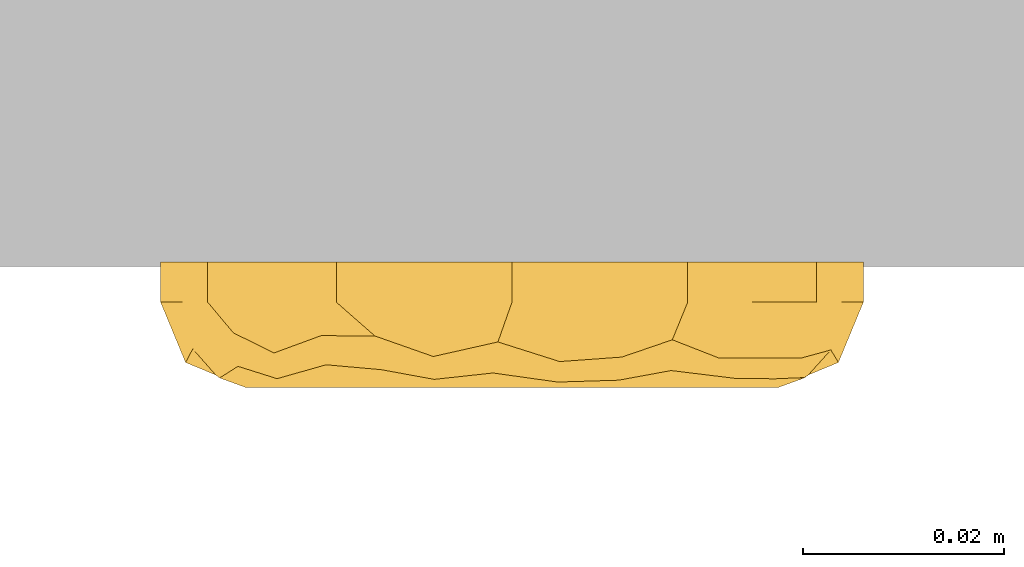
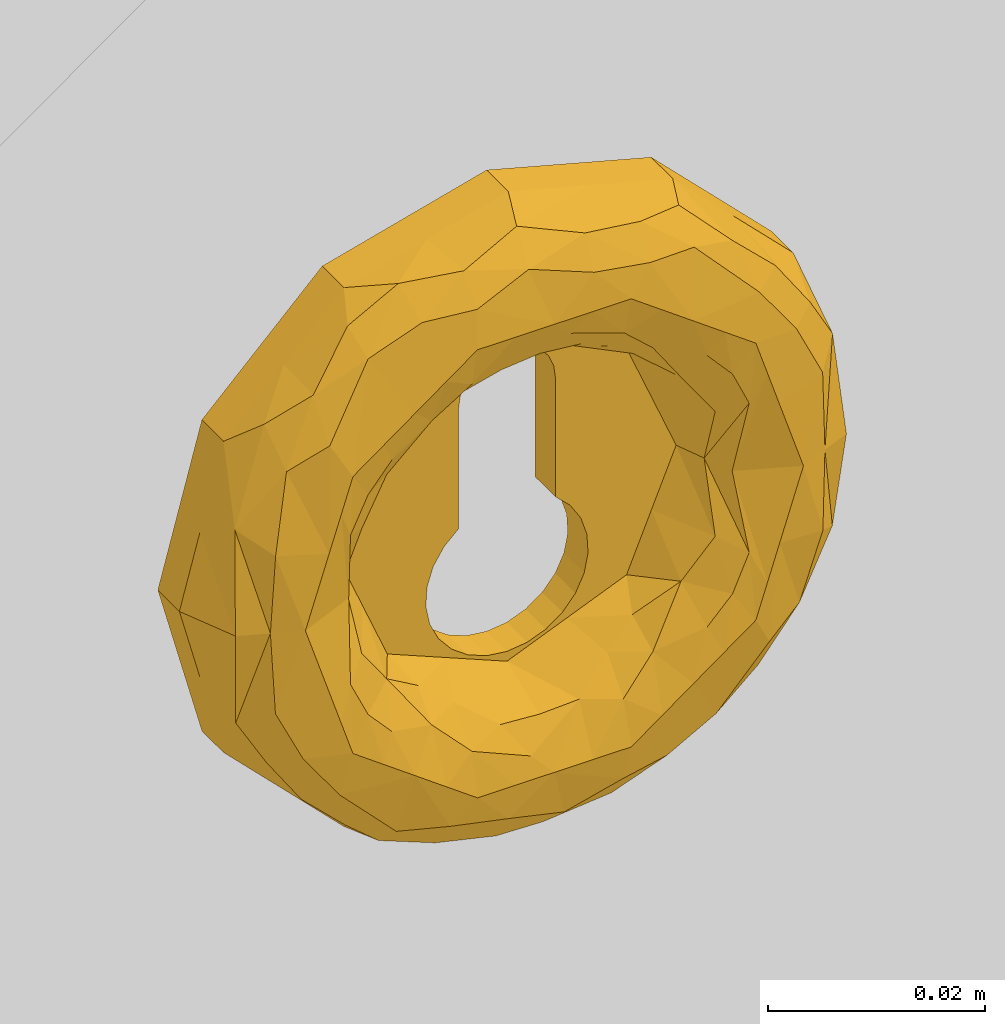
# One storey, part 2 of 2: 1 door.
"""IFC2X3 building model written with IfcOpenShell, lengths in feet."""

from ifc_helpers import new_model, entity, si_unit, converted_unit, derived_unit, direction, frame, origin, place, context, subcontext, project, spatial, faceted_brep, source, transform, mapped, type_object, type_shapes, element, save


model = new_model("IFC2X3")

# Units and contexts
model_context = context("Model", 3, precision=0.0001, world=origin(), true_north=direction((6.12303176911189e-17, 1.0)))
body_context = subcontext(model_context, "Body", "Model", "MODEL_VIEW")
ifc_project = project(units=[converted_unit("LENGTHUNIT", "FOOT", entity("IfcRatioMeasure", 0.3048), si_unit("LENGTHUNIT", "METRE"), dimensions=[1, 0, 0, 0, 0, 0, 0]), converted_unit("AREAUNIT", "SQUARE FOOT", entity("IfcRatioMeasure", 0.09290304), si_unit("AREAUNIT", "SQUARE_METRE"), dimensions=[2, 0, 0, 0, 0, 0, 0]), converted_unit("VOLUMEUNIT", "CUBIC FOOT", entity("IfcRatioMeasure", 0.028316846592), si_unit("VOLUMEUNIT", "CUBIC_METRE"), dimensions=[3, 0, 0, 0, 0, 0, 0]), converted_unit("PLANEANGLEUNIT", "DEGREE", entity("IfcRatioMeasure", 0.0174532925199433), si_unit("PLANEANGLEUNIT", "RADIAN"), dimensions=[0, 0, 0, 0, 0, 0, 0]), si_unit("MASSUNIT", "GRAM", prefix="KILO"), derived_unit("MASSDENSITYUNIT", [(si_unit("MASSUNIT", "GRAM", prefix="KILO"), 1), (si_unit("LENGTHUNIT", "METRE"), -3)]), si_unit("TIMEUNIT", "SECOND"), si_unit("FREQUENCYUNIT", "HERTZ"), si_unit("THERMODYNAMICTEMPERATUREUNIT", "DEGREE_CELSIUS"), derived_unit("THERMALTRANSMITTANCEUNIT", [(si_unit("MASSUNIT", "GRAM", prefix="KILO"), 1), (si_unit("THERMODYNAMICTEMPERATUREUNIT", "KELVIN"), -1), (si_unit("TIMEUNIT", "SECOND"), -3)]), derived_unit("VOLUMETRICFLOWRATEUNIT", [(si_unit("LENGTHUNIT", "METRE"), 3), (si_unit("TIMEUNIT", "SECOND"), -1)]), si_unit("ELECTRICCURRENTUNIT", "AMPERE"), si_unit("ELECTRICVOLTAGEUNIT", "VOLT"), si_unit("POWERUNIT", "WATT"), si_unit("FORCEUNIT", "NEWTON"), si_unit("ILLUMINANCEUNIT", "LUX"), si_unit("LUMINOUSFLUXUNIT", "LUMEN"), si_unit("LUMINOUSINTENSITYUNIT", "CANDELA"), derived_unit("USERDEFINED", [(si_unit("MASSUNIT", "GRAM", prefix="KILO"), -1), (si_unit("LENGTHUNIT", "METRE"), -2), (si_unit("TIMEUNIT", "SECOND"), 3), (si_unit("LUMINOUSFLUXUNIT", "LUMEN"), 1)]), derived_unit("LINEARVELOCITYUNIT", [(si_unit("LENGTHUNIT", "METRE"), 1), (si_unit("TIMEUNIT", "SECOND"), -1)]), si_unit("PRESSUREUNIT", "PASCAL"), derived_unit("USERDEFINED", [(si_unit("LENGTHUNIT", "METRE"), -2), (si_unit("MASSUNIT", "GRAM", prefix="KILO"), 1), (si_unit("TIMEUNIT", "SECOND"), -2)])], contexts=[model_context])

# Site, building, storey
site_placement = place(None, origin())
site = spatial("IfcSite", under=ifc_project, at=site_placement, Name="Default", CompositionType="ELEMENT")
building_placement = place(site_placement, origin())
building = spatial("IfcBuilding", under=site, at=building_placement, CompositionType="ELEMENT")
storey_placement = place(building_placement, origin())
storey = spatial("IfcBuildingStorey", under=building, at=storey_placement, Name="Level 1", CompositionType="ELEMENT", Elevation=0.0)

# Door
door_style = type_object("IfcDoorStyle", Name="dline_Hardware_TomDixonCollection_Escutcheons_PZ_Half_SnapOn_3.25", ConstructionType="NOTDEFINED", OperationType="NOTDEFINED", ParameterTakesPrecedence=False, Sizeable=False)
shared_shape = source(origin(), body_context, "Body", "Brep", [
    faceted_brep([(-0.0279110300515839, 0.021933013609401, -0.00161922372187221), (-0.11482939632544, 0.0, -0.00161922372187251), (-0.107137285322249, 0.0287073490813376, -0.00161922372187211), (-0.0257686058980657, 0.0151773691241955, -0.0016192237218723), (-0.0994451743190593, 0.0574146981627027, -0.00161922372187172), (-0.028312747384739, 0.0290088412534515, -0.00161922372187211), (-0.0220190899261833, 0.00916323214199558, -0.00161922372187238), (-0.0168963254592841, 0.0, -0.00161922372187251), (-0.0168963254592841, 0.00426568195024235, -0.00161922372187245), (-0.107137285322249, -0.0287073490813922, -0.00161922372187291), (-0.0994451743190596, -0.0574146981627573, -0.0016192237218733), (-0.016896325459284, -0.0399606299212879, -0.00161922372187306), (-0.0163205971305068, -0.0443337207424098, -0.00161922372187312), (-0.0784299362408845, -0.0784299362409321, -0.00161922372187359), (-0.0574146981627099, -0.0994451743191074, -0.00161922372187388), (-0.0146326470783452, -0.0484087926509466, -0.00161922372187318), (-0.0119475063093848, -0.051908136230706, -0.00161922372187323), (-0.00844816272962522, -0.0545932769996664, -0.00161922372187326), (-0.0287073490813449, -0.107137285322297, -0.00161922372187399), (0.0, -0.114829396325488, -0.0016192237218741), (-0.00437309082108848, -0.0562812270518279, -0.00161922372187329), (0.0, -0.0568569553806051, -0.0016192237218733), (0.00437309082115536, -0.0562812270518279, -0.00161922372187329), (0.0084481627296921, -0.0545932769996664, -0.00161922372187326), (0.0287073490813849, -0.107137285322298, -0.00161922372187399), (0.0574146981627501, -0.0994451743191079, -0.00161922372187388), (0.0119475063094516, -0.051908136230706, -0.00161922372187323), (0.014632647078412, -0.0484087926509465, -0.00161922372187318), (0.0163205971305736, -0.0443337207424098, -0.00161922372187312), (0.0784299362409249, -0.0784299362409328, -0.00161922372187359), (0.0994451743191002, -0.0574146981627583, -0.0016192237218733), (0.0168963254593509, -0.0399606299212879, -0.00161922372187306), (0.0168963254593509, 0.0, -0.00161922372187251), (0.10713728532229, -0.0287073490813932, -0.00161922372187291), (0.114829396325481, 0.0, -0.00161922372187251), (0.02201908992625, 0.00916323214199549, -0.00161922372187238), (0.0168963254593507, 0.00426568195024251, -0.00161922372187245), (0.0257686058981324, 0.0151773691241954, -0.0016192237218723), (0.0279110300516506, 0.0219330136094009, -0.00161922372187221), (0.10713728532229, 0.0287073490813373, -0.00161922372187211), (0.0994451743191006, 0.0574146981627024, -0.00161922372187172), (0.0283127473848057, 0.0290088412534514, -0.00161922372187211), (0.0269487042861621, 0.0359635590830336, -0.00161922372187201), (0.0239039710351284, 0.0423634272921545, -0.00161922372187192), (0.0784299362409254, 0.0784299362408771, -0.00161922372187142), (0.0574146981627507, 0.0994451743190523, -0.00161922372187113), (0.0193684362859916, 0.0478093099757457, -0.00161922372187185), (0.0136249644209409, 0.0519615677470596, -0.00161922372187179), (0.0070317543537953, 0.0545612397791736, -0.00161922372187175), (0.0287073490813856, 0.107137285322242, -0.00161922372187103), (0.0, 0.114829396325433, -0.00161922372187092), (0.0, 0.0554461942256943, -0.00161922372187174), (-0.00703175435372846, 0.0545612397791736, -0.00161922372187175), (-0.0287073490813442, 0.107137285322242, -0.00161922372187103), (-0.0574146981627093, 0.0994451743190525, -0.00161922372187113), (-0.0136249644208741, 0.0519615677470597, -0.00161922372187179), (-0.0193684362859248, 0.0478093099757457, -0.00161922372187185), (-0.0239039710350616, 0.0423634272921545, -0.00161922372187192), (-0.0269487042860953, 0.0359635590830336, -0.00161922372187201), (-0.0784299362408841, 0.0784299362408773, -0.00161922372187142), (0.0994451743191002, 0.057414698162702, 0.0114829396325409), (0.103991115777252, 0.0404490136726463, 0.0114829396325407), (0.107693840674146, 0.026630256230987, 0.0114829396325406), (0.109410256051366, 0.0202245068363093, 0.0114829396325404), (0.11482939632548, 0.0, 0.0114829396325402), (-0.107137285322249, 0.0287073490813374, 0.0114829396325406), (-0.0994451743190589, 0.0574146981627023, 0.0114829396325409), (-0.114829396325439, 0.0, 0.0114829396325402), (-0.107693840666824, 0.0266302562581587, 0.0114829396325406), (0.0574146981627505, 0.0994451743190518, 0.0114829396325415), (0.0784299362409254, 0.0784299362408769, 0.0114829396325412), (0.0, 0.114829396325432, 0.0114829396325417), (0.0287073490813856, 0.107137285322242, 0.0114829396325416), (-0.0574146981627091, 0.099445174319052, 0.0114829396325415), (-0.0287073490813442, 0.107137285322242, 0.0114829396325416), (-0.078429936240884, 0.0784299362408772, 0.0114829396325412), (-0.0994451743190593, -0.0574146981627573, 0.0114829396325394), (-0.103991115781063, -0.0404490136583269, 0.0114829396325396), (-0.107693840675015, -0.0266302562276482, 0.0114829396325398), (-0.109410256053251, -0.0202245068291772, 0.0114829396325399), (0.10713728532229, -0.0287073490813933, 0.0114829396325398), (0.0994451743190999, -0.0574146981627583, 0.0114829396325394), (0.107693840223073, -0.0266302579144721, 0.0114829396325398), (-0.0574146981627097, -0.0994451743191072, 0.0114829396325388), (-0.0784299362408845, -0.0784299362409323, 0.0114829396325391), (0.0, -0.114829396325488, 0.0114829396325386), (-0.0287073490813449, -0.107137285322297, 0.0114829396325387), (0.0574146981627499, -0.0994451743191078, 0.0114829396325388), (0.028707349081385, -0.107137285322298, 0.0114829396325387), (0.0784299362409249, -0.0784299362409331, 0.0114829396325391), (0.104185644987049, 0.0354321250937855, 0.0271008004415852), (-0.0046047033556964, 0.111512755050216, 0.0244946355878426), (-0.025741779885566, 0.10534524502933, 0.0292406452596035), (-0.00619756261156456, 0.102307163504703, 0.0346305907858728), (0.0358880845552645, 0.102162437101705, 0.0294351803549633), (0.0155927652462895, 0.105819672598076, 0.0308965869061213), (0.0955252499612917, 0.0295866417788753, 0.0361229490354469), (0.094865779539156, 0.0518237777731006, 0.0296521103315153), (0.0861007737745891, 0.0492820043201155, 0.0365281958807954), (-0.0607702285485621, 0.0867087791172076, 0.0319500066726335), (-0.0427446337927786, 0.0948088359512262, 0.0335454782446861), (-0.0447977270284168, 0.103246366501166, 0.0225341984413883), (0.106661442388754, 0.0, 0.0312021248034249), (0.0676873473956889, 0.0841498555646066, 0.0297723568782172), (0.0520024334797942, 0.0896197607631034, 0.0338375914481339), (0.0733057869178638, 0.0671199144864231, 0.0364366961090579), (0.0703377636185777, 0.0511033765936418, 0.0393700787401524), (0.052381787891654, 0.0989614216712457, 0.0237841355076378), (0.0348720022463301, 0.0918425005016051, 0.0369790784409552), (-0.0623906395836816, 0.0937215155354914, 0.0224341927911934), (0.0968018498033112, 0.0, 0.0352861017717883), (0.0486021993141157, 0.0668951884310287, 0.0393700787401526), (0.0594699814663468, 0.0589992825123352, 0.0393700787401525), (-0.104311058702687, 0.0357333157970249, 0.0267764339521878), (-0.0895434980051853, 0.0554412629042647, 0.0324601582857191), (-0.0910296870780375, 0.0668764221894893, 0.0215339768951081), (-0.0253978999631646, 0.0954931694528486, 0.0367174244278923), (-0.0486021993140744, 0.0668951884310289, 0.0393700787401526), (-0.0777445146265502, 0.0769081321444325, 0.0280735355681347), (-0.0767557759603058, 0.0629682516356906, 0.0364925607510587), (-0.0955414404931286, 0.0286489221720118, 0.0362579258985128), (-0.0968018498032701, 0.0, 0.0352861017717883), (-0.106661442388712, 0.0, 0.0312021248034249), (0.0149465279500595, 0.0955802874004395, 0.037591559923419), (-0.0786400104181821, 0.0255516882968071, 0.0393700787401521), (-0.0869422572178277, 0.0, 0.0393700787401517), (0.0869422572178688, 0.0, 0.0393700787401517), (0.0744017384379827, 0.0385957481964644, 0.0393700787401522), (0.0784657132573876, 0.0260881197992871, 0.0393700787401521), (0.0786400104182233, 0.0255516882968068, 0.0393700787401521), (0.0827039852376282, 0.0130440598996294, 0.0393700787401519), (0.082752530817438, 0.0695465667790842, 0.0296548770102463), (0.0268666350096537, 0.0826870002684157, 0.0393700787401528), (0.0377344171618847, 0.0747910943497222, 0.0393700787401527), (0.0, 0.0826870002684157, 0.0393700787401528), (0.0134333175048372, 0.0826870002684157, 0.0393700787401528), (-0.0703377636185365, 0.051103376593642, 0.0393700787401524), (-0.0594699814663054, 0.0589992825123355, 0.0393700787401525), (-0.0268666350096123, 0.0826870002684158, 0.0393700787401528), (-0.0134333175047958, 0.0826870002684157, 0.0393700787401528), (-0.0377344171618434, 0.0747910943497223, 0.0393700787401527), (-0.0784657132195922, 0.0260881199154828, 0.0393700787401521), (-0.0744017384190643, 0.0385957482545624, 0.0393700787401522), (-0.0827039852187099, 0.0130440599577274, 0.0393700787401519), (-0.104185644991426, -0.0354321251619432, 0.0271008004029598), (0.0895434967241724, -0.0554412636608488, 0.0324601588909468), (0.0786400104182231, -0.0255516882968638, 0.0393700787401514), (0.0767557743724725, -0.0629682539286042, 0.0364925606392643), (0.104311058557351, -0.0357333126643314, 0.0267764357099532), (-0.0955252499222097, -0.0295866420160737, 0.0361229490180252), (-0.0948657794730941, -0.0518237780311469, 0.0296521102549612), (-0.0861007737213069, -0.04928200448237, 0.0365281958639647), (-0.0733057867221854, -0.0671199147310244, 0.0364366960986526), (-0.0486021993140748, -0.066895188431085, 0.0393700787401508), (-0.0594699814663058, -0.0589992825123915, 0.0393700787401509), (-0.0703377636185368, -0.051103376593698, 0.039370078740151), (-0.0358880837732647, -0.102162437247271, 0.0294351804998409), (-0.0155927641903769, -0.10581967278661, 0.0308965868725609), (-0.0676873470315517, -0.0841498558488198, 0.0297723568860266), (-0.0520024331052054, -0.0896197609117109, 0.0338375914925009), (-0.0348720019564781, -0.0918425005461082, 0.036979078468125), (0.00460470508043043, -0.111512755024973, 0.0244946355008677), (0.0910296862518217, -0.0668764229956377, 0.0215339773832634), (0.0607702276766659, -0.0867087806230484, 0.0319500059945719), (0.0447977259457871, -0.103246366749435, 0.0225341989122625), (0.0623906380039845, -0.0937215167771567, 0.022434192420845), (0.0427446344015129, -0.0948088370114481, 0.0335454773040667), (0.0253979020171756, -0.0954931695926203, 0.0367174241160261), (0.0257417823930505, -0.10534524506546, 0.0292406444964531), (0.0777445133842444, -0.076908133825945, 0.0280735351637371), (0.0955414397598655, -0.0286489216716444, 0.0362579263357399), (0.00619756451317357, -0.102307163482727, 0.0346305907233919), (-0.0149465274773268, -0.0955802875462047, 0.0375915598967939), (0.0486021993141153, -0.0668951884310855, 0.0393700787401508), (-0.0523817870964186, -0.0989614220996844, 0.023784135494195), (-0.0744017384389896, -0.0385957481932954, 0.0393700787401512), (-0.0784657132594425, -0.0260881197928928, 0.0393700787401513), (-0.0786400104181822, -0.0255516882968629, 0.0393700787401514), (-0.0827039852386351, -0.0130440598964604, 0.0393700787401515), (-0.0827525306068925, -0.0695465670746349, 0.0296548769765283), (-0.0268666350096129, -0.082687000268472, 0.0393700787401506), (-0.0377344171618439, -0.0747910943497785, 0.0393700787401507), (0.0, -0.0826870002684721, 0.0393700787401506), (-0.0134333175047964, -0.0826870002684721, 0.0393700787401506), (0.0703377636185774, -0.0511033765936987, 0.039370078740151), (0.0594699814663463, -0.0589992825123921, 0.0393700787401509), (0.0268666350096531, -0.0826870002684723, 0.0393700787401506), (0.0134333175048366, -0.0826870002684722, 0.0393700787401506), (0.0377344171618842, -0.0747910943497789, 0.0393700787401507), (0.0784657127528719, -0.0260881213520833, 0.0393700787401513), (0.0744017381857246, -0.038595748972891, 0.0393700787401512), (0.0827039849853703, -0.013044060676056, 0.0393700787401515), (0.0636047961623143, 0.0405805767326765, 0.0368909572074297), (0.0513671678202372, 0.0376953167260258, 0.026915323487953), (0.0550426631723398, 0.0500903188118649, 0.0364018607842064), (0.0386003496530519, 0.0560868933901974, 0.0320289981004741), (0.0798185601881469, 0.0, 0.0363577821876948), (0.0669351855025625, 0.0, 0.0309099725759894), (0.0616975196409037, 0.0229978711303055, 0.0297195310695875), (0.0695970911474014, 0.0275486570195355, 0.0366125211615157), (0.0630011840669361, 0.0, 0.0207863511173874), (-0.0798185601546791, 0.0, 0.0363577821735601), (-0.0669351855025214, 0.0, 0.0309099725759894), (0.0268801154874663, 0.0563269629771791, 0.024748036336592), (0.0265386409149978, 0.067942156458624, 0.0356006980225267), (0.0138649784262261, 0.0653597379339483, 0.0307845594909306), (-0.0417668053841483, 0.0417668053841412, 0.010662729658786), (-0.0373394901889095, 0.0482419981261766, 0.0217258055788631), (-0.0513671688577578, 0.0376953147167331, 0.0269153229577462), (-0.0504169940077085, 0.0208834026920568, 0.0106627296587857), (-0.0616975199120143, 0.0229978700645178, 0.029719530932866), (-0.0636047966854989, 0.0405805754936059, 0.0368909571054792), (-0.0267584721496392, 0.0564827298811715, 0.0249102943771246), (-0.0208834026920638, 0.0504169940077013, 0.0106627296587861), (-0.0135623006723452, 0.0655468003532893, 0.0309099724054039), (0.0504169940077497, 0.0208834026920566, 0.0106627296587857), (-0.0695970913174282, 0.0275486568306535, 0.0366125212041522), (-0.063001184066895, 0.0, 0.0207863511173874), (-0.038600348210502, 0.0560868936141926, 0.0320289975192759), (-0.0550426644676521, 0.050090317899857, 0.0364018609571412), (0.00687844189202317, 0.0756073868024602, 0.0370992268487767), (-0.0590671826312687, 0.0, 0.0106627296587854), (0.000152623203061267, 0.0665365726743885, 0.0304910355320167), (0.0374699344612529, 0.0481566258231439, 0.0217574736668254), (-0.0264686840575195, 0.0673049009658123, 0.0352306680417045), (0.0417668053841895, 0.0417668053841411, 0.010662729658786), (0.0590671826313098, 0.0, 0.0106627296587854), (0.0, 0.0590671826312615, 0.0106627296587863), (0.0208834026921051, 0.0504169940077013, 0.0106627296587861), (-0.0636047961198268, -0.0405805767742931, 0.036890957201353), (0.0550426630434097, -0.0500903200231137, 0.0364018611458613), (0.0386003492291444, -0.0560868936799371, 0.0320289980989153), (-0.0616975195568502, -0.022997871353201, 0.0297195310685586), (-0.0695970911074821, -0.027548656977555, 0.0366125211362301), (-0.0268801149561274, -0.0563269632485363, 0.0247480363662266), (-0.0265386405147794, -0.067942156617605, 0.0356006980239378), (-0.013864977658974, -0.0653597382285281, 0.0307845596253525), (0.0504169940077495, -0.0208834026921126, 0.0106627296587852), (0.0513671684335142, -0.037695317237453, 0.0269153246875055), (0.0616975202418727, -0.0229978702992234, 0.0297195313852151), (0.0417668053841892, -0.0417668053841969, 0.0106627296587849), (0.0373394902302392, -0.0482419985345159, 0.0217258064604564), (-0.0513671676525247, -0.0376953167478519, 0.0269153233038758), (-0.0550426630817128, -0.0500903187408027, 0.0364018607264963), (-0.0386003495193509, -0.0560868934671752, 0.0320289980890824), (0.0267584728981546, -0.0564827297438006, 0.0249102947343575), (0.0208834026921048, -0.050416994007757, 0.0106627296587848), (0.0135623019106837, -0.0655468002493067, 0.0309099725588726), (0.06360479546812, -0.0405805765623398, 0.0368909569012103), (0.0695970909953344, -0.0275486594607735, 0.0366125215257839), (-0.0504169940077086, -0.0208834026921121, 0.0106627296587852), (-0.00687844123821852, -0.0756073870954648, 0.0370992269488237), (-0.000152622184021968, -0.0665365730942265, 0.0304910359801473), (-0.0374699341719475, -0.0481566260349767, 0.0217574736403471), (0.0264686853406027, -0.0673048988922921, 0.0352306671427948), (-0.0417668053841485, -0.0417668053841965, 0.0106627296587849), (0.0, -0.0590671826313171, 0.0106627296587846), (-0.0208834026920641, -0.0504169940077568, 0.0106627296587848), (-0.0279110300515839, 0.0219330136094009, 0.010662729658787), (-0.028312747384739, 0.0290088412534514, 0.0106627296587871), (-0.0257686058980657, 0.0151773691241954, 0.0106627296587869), (-0.0269487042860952, 0.0359635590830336, 0.0106627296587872), (-0.0239039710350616, 0.0423634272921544, 0.0106627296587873), (-0.0193684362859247, 0.0478093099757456, 0.0106627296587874), (-0.0136249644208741, 0.0519615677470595, 0.0106627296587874), (-0.00703175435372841, 0.0545612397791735, 0.0106627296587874), (0.0, 0.0554461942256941, 0.0106627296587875), (0.00703175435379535, 0.0545612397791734, 0.0106627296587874), (0.0136249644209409, 0.0519615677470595, 0.0106627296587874), (0.0193684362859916, 0.0478093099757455, 0.0106627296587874), (0.0239039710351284, 0.0423634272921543, 0.0106627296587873), (0.0269487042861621, 0.0359635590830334, 0.0106627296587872), (0.0283127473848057, 0.0290088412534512, 0.0106627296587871), (0.0279110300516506, 0.0219330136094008, 0.010662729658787), (0.0257686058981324, 0.0151773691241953, 0.0106627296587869), (0.02201908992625, 0.00916323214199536, 0.0106627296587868), (0.0168963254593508, 0.0, 0.0106627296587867), (0.0168963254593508, 0.00426568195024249, 0.0106627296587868), (0.0168963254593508, -0.0399606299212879, 0.0106627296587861), (0.0163205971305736, -0.0443337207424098, 0.0106627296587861), (0.0146326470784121, -0.0484087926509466, 0.010662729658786), (0.0119475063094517, -0.0519081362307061, 0.010662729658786), (0.00844816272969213, -0.0545932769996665, 0.0106627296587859), (0.00437309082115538, -0.0562812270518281, 0.0106627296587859), (0.0, -0.0568569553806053, 0.0106627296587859), (-0.00437309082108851, -0.0562812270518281, 0.0106627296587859), (-0.00844816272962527, -0.0545932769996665, 0.0106627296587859), (-0.0119475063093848, -0.0519081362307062, 0.010662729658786), (-0.0146326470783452, -0.0484087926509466, 0.010662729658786), (-0.0163205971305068, -0.0443337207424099, 0.0106627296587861), (-0.016896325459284, -0.0399606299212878, 0.0106627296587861), (-0.0168963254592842, 0.0, 0.0106627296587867), (-0.0220190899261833, 0.00916323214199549, 0.0106627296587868), (-0.016896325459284, 0.00426568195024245, 0.0106627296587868)], [[[0, 1, 2]], [[3, 1, 0]], [[0, 2, 4]], [[5, 0, 4]], [[6, 1, 3]], [[7, 1, 6]], [[6, 8, 7]], [[7, 9, 1]], [[7, 10, 9]], [[7, 11, 10]], [[12, 10, 11]], [[12, 13, 10]], [[12, 14, 13]], [[15, 14, 12]], [[15, 16, 14]], [[17, 14, 16]], [[17, 18, 14]], [[17, 19, 18]], [[17, 20, 19]], [[20, 21, 19]], [[21, 22, 19]], [[23, 19, 22]], [[23, 24, 19]], [[23, 25, 24]], [[25, 23, 26]], [[27, 25, 26]], [[28, 25, 27]], [[28, 29, 25]], [[28, 30, 29]], [[30, 28, 31]], [[31, 32, 30]], [[32, 33, 30]], [[32, 34, 33]], [[34, 32, 35]], [[35, 32, 36]], [[35, 37, 34]], [[38, 34, 37]], [[38, 39, 34]], [[38, 40, 39]], [[38, 41, 40]], [[40, 41, 42]], [[40, 42, 43]], [[43, 44, 40]], [[43, 45, 44]], [[46, 45, 43]], [[45, 46, 47]], [[47, 48, 45]], [[48, 49, 45]], [[48, 50, 49]], [[51, 50, 48]], [[51, 52, 50]], [[52, 53, 50]], [[52, 54, 53]], [[54, 52, 55]], [[54, 55, 56]], [[54, 56, 57]], [[4, 57, 58]], [[57, 4, 59]], [[57, 59, 54]], [[5, 4, 58]], [[40, 60, 61, 62, 63, 64, 34, 39]], [[65, 66, 4, 2, 1, 67, 68]], [[40, 44, 45, 69, 70, 60]], [[71, 72, 69, 45, 49, 50]], [[50, 53, 54, 73, 74, 71]], [[59, 4, 66, 75, 73, 54]], [[10, 76, 77, 78, 79, 67, 1, 9]], [[80, 81, 30, 33, 34, 64, 82]], [[10, 13, 14, 83, 84, 76]], [[85, 86, 83, 14, 18, 19]], [[19, 24, 25, 87, 88, 85]], [[29, 30, 81, 89, 87, 25]], [[90, 62, 61, 60]], [[91, 92, 93]], [[94, 72, 95]], [[96, 97, 98]], [[99, 100, 101]], [[90, 102, 62]], [[103, 104, 105]], [[90, 97, 96]], [[98, 105, 106]], [[107, 104, 103]], [[104, 94, 108]], [[91, 74, 92]], [[91, 95, 72]], [[102, 64, 63, 62]], [[101, 109, 99]], [[96, 110, 90]], [[105, 111, 112, 106]], [[113, 114, 115]], [[97, 60, 70]], [[100, 116, 92]], [[116, 100, 117]], [[118, 119, 99]], [[120, 113, 121]], [[69, 103, 70]], [[68, 122, 113]], [[95, 123, 108]], [[114, 124, 119]], [[66, 115, 75]], [[113, 66, 65, 68]], [[68, 67, 122]], [[121, 125, 120]], [[110, 96, 126]], [[110, 102, 90]], [[60, 97, 90]], [[98, 106, 127, 128, 129]], [[96, 129, 130, 126]], [[98, 97, 131]], [[98, 131, 105]], [[96, 98, 129]], [[103, 105, 131]], [[111, 105, 104]], [[103, 131, 70]], [[107, 103, 69]], [[71, 91, 72]], [[94, 104, 107]], [[107, 69, 72]], [[72, 94, 107]], [[108, 111, 104]], [[123, 95, 93]], [[95, 108, 94]], [[108, 132, 133, 111]], [[116, 134, 93]], [[132, 108, 123]], [[123, 134, 135, 132]], [[116, 93, 92]], [[134, 123, 93]], [[95, 91, 93]], [[73, 101, 74]], [[99, 136, 137, 117]], [[116, 138, 139, 134]], [[100, 92, 101]], [[116, 117, 140, 138]], [[117, 100, 99]], [[91, 71, 74]], [[74, 101, 92]], [[101, 73, 109]], [[115, 114, 118]], [[118, 99, 109]], [[109, 73, 75]], [[75, 118, 109]], [[119, 118, 114]], [[75, 115, 118]], [[113, 115, 66]], [[97, 70, 131]], [[99, 119, 136]], [[114, 120, 124]], [[119, 124, 141, 142, 136]], [[113, 122, 121]], [[120, 125, 143, 124]], [[113, 120, 114]], [[144, 78, 77, 76]], [[145, 146, 147]], [[82, 102, 148]], [[149, 150, 151]], [[152, 153, 154, 155]], [[144, 122, 78]], [[156, 86, 157]], [[144, 150, 149]], [[151, 152, 155]], [[158, 159, 152]], [[159, 156, 160]], [[150, 76, 84]], [[161, 157, 86]], [[149, 121, 144]], [[148, 145, 162]], [[122, 67, 79, 78]], [[81, 162, 89]], [[163, 164, 165]], [[83, 158, 84]], [[166, 167, 168]], [[161, 88, 168]], [[169, 147, 163]], [[170, 148, 110]], [[161, 168, 171]], [[163, 166, 164]], [[157, 172, 160]], [[167, 166, 173]], [[174, 159, 158]], [[148, 81, 80, 82]], [[82, 64, 102]], [[110, 126, 170]], [[121, 149, 125]], [[121, 122, 144]], [[76, 150, 144]], [[151, 155, 175, 176, 177]], [[149, 177, 178, 125]], [[151, 150, 179]], [[151, 179, 152]], [[149, 151, 177]], [[158, 152, 179]], [[153, 152, 159]], [[158, 179, 84]], [[174, 158, 83]], [[85, 161, 86]], [[156, 159, 174]], [[174, 83, 86]], [[86, 156, 174]], [[160, 153, 159]], [[172, 157, 171]], [[157, 160, 156]], [[160, 180, 181, 153]], [[167, 182, 171]], [[180, 160, 172]], [[172, 182, 183, 180]], [[167, 171, 168]], [[182, 172, 171]], [[157, 161, 171]], [[87, 164, 88]], [[163, 184, 185, 173]], [[167, 186, 187, 182]], [[166, 168, 164]], [[167, 173, 188, 186]], [[173, 166, 163]], [[161, 85, 88]], [[88, 164, 168]], [[164, 87, 165]], [[162, 145, 169]], [[169, 163, 165]], [[165, 87, 89]], [[89, 169, 165]], [[147, 169, 145]], [[89, 162, 169]], [[148, 162, 81]], [[150, 84, 179]], [[163, 147, 184]], [[145, 170, 146]], [[147, 146, 189, 190, 184]], [[148, 102, 110]], [[170, 126, 191, 146]], [[148, 170, 145]], [[112, 192, 106]], [[193, 194, 195]], [[196, 126, 130, 129, 128, 127, 197]], [[192, 198, 199]], [[106, 199, 127]], [[200, 199, 198]], [[195, 111, 133]], [[201, 202, 142, 141, 124, 143, 125]], [[203, 204, 205]], [[206, 207, 208]], [[209, 208, 210]], [[208, 211, 210]], [[212, 213, 214]], [[193, 215, 198]], [[142, 202, 216]], [[202, 217, 216]], [[218, 117, 219]], [[204, 220, 205]], [[219, 117, 137]], [[195, 133, 204]], [[210, 221, 209]], [[222, 220, 214]], [[223, 195, 203]], [[204, 135, 220]], [[218, 212, 224]], [[220, 222, 205]], [[224, 140, 218]], [[193, 192, 194]], [[193, 225, 215]], [[215, 226, 198]], [[205, 227, 228]], [[207, 213, 212]], [[213, 227, 214]], [[193, 195, 223]], [[134, 220, 135]], [[111, 194, 112]], [[192, 193, 198]], [[206, 208, 209]], [[211, 208, 219]], [[136, 216, 211]], [[216, 210, 211]], [[218, 219, 208]], [[198, 226, 200]], [[197, 127, 199]], [[106, 192, 199]], [[112, 194, 192]], [[216, 136, 142]], [[197, 199, 200]], [[216, 217, 210]], [[219, 137, 211]], [[136, 211, 137]], [[111, 195, 194]], [[221, 210, 217]], [[132, 204, 133]], [[203, 205, 228]], [[223, 228, 225]], [[195, 204, 203]], [[204, 132, 135]], [[138, 224, 139]], [[214, 220, 134]], [[214, 227, 222]], [[227, 205, 222]], [[228, 223, 203]], [[193, 223, 225]], [[214, 134, 139]], [[224, 212, 214]], [[140, 117, 218]], [[207, 212, 218]], [[139, 224, 214]], [[140, 224, 138]], [[208, 207, 218]], [[213, 207, 206]], [[154, 229, 155]], [[230, 173, 185]], [[231, 188, 173]], [[229, 232, 233]], [[155, 233, 175]], [[217, 233, 232]], [[191, 126, 196, 197, 190, 189, 146]], [[201, 125, 178, 177, 176, 175, 202]], [[234, 235, 236]], [[237, 238, 239]], [[240, 241, 238]], [[242, 243, 244]], [[245, 246, 247]], [[238, 248, 239]], [[190, 197, 249]], [[197, 200, 249]], [[244, 243, 153]], [[242, 250, 232]], [[235, 251, 236]], [[244, 181, 235]], [[239, 226, 237]], [[252, 251, 247]], [[253, 244, 234]], [[235, 183, 251]], [[231, 245, 254]], [[251, 252, 236]], [[173, 230, 231]], [[242, 229, 243]], [[242, 255, 250]], [[250, 221, 232]], [[236, 256, 257]], [[241, 246, 245]], [[246, 256, 247]], [[242, 244, 253]], [[244, 153, 181]], [[153, 243, 154]], [[229, 242, 232]], [[240, 238, 237]], [[248, 238, 230]], [[184, 249, 248]], [[249, 239, 248]], [[231, 230, 238]], [[232, 221, 217]], [[202, 175, 233]], [[155, 229, 233]], [[154, 243, 229]], [[249, 184, 190]], [[202, 233, 217]], [[249, 200, 239]], [[230, 185, 248]], [[184, 248, 185]], [[182, 251, 183]], [[226, 239, 200]], [[235, 181, 180]], [[234, 236, 257]], [[253, 257, 255]], [[244, 235, 234]], [[235, 180, 183]], [[186, 254, 187]], [[247, 251, 182]], [[247, 256, 252]], [[256, 236, 252]], [[257, 253, 234]], [[242, 253, 255]], [[247, 182, 187]], [[254, 188, 231]], [[254, 245, 247]], [[241, 245, 231]], [[187, 254, 247]], [[188, 254, 186]], [[238, 241, 231]], [[246, 241, 240]], [[258, 206, 209]], [[206, 258, 259]], [[258, 209, 221]], [[258, 221, 260]], [[261, 206, 259]], [[206, 261, 262]], [[206, 262, 263]], [[263, 264, 206]], [[264, 213, 206]], [[264, 227, 213]], [[227, 264, 265]], [[265, 266, 227]], [[266, 267, 227]], [[227, 267, 268]], [[268, 228, 227]], [[268, 225, 228]], [[225, 268, 269]], [[269, 270, 225]], [[271, 225, 270]], [[225, 271, 272]], [[225, 272, 273]], [[273, 215, 225]], [[273, 226, 215]], [[274, 226, 273]], [[226, 274, 275]], [[275, 276, 226]], [[277, 276, 275]], [[276, 237, 226]], [[276, 240, 237]], [[240, 276, 278]], [[278, 279, 240]], [[279, 280, 240]], [[280, 281, 240]], [[281, 282, 240]], [[282, 246, 240]], [[282, 256, 246]], [[283, 256, 282]], [[284, 256, 283]], [[284, 285, 256]], [[256, 285, 286]], [[286, 257, 256]], [[286, 255, 257]], [[287, 255, 286]], [[287, 288, 255]], [[255, 288, 289]], [[289, 290, 255]], [[290, 291, 255]], [[292, 221, 291]], [[291, 293, 292]], [[291, 221, 250]], [[291, 250, 255]], [[260, 221, 292]], [[276, 277, 36, 32, 31, 278]], [[278, 31, 28, 279]], [[279, 28, 27, 280]], [[282, 281, 26, 23]], [[26, 281, 280, 27]], [[283, 282, 23, 22]], [[283, 22, 21, 284]], [[284, 21, 20, 285]], [[285, 20, 17, 286]], [[288, 287, 16, 15]], [[16, 287, 286, 17]], [[289, 288, 15, 12]], [[289, 12, 11, 290]], [[290, 11, 7, 8, 293, 291]], [[292, 293, 8, 6]], [[258, 260, 3, 0]], [[3, 260, 292, 6]], [[258, 0, 5, 259]], [[262, 261, 58, 57]], [[264, 263, 56, 55]], [[56, 263, 262, 57]], [[261, 259, 5, 58]], [[265, 264, 55, 52]], [[51, 266, 265, 52]], [[266, 51, 48, 267]], [[268, 47, 46, 269]], [[268, 267, 48, 47]], [[270, 269, 46, 43]], [[272, 271, 42, 41]], [[274, 273, 38, 37]], [[38, 273, 272, 41]], [[42, 271, 270, 43]], [[274, 37, 35, 275]], [[35, 36, 277, 275]]]),
])
type_shapes(door_style, [shared_shape])
door_placement = place(storey_placement, frame((-6.35514988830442, 5.22662930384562, 3.81195950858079), z_axis=(0.0, -1.0, 0.0), x_axis=(-1.0, 0.0, 0.0)))
element("IfcDoor", 1, at=door_placement, inside=storey, type_object=door_style, Name="12.9003.02.060:dline_Hardware_TomDixonCollection_Escutcheons_PZ_Half_SnapOn_3.25", ObjectType="12.9003.02.060:dline_Hardware_TomDixonCollection_Escutcheons_PZ_Half_SnapOn_3.25", OverallHeight=0.402701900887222, OverallWidth=0.442913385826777, context=body_context, shape_type="MappedRepresentation", body=[
    mapped(shared_shape, transform((0.0, 0.0, 0.0), scale=1.0)),
])

save(model, "model.ifc")
